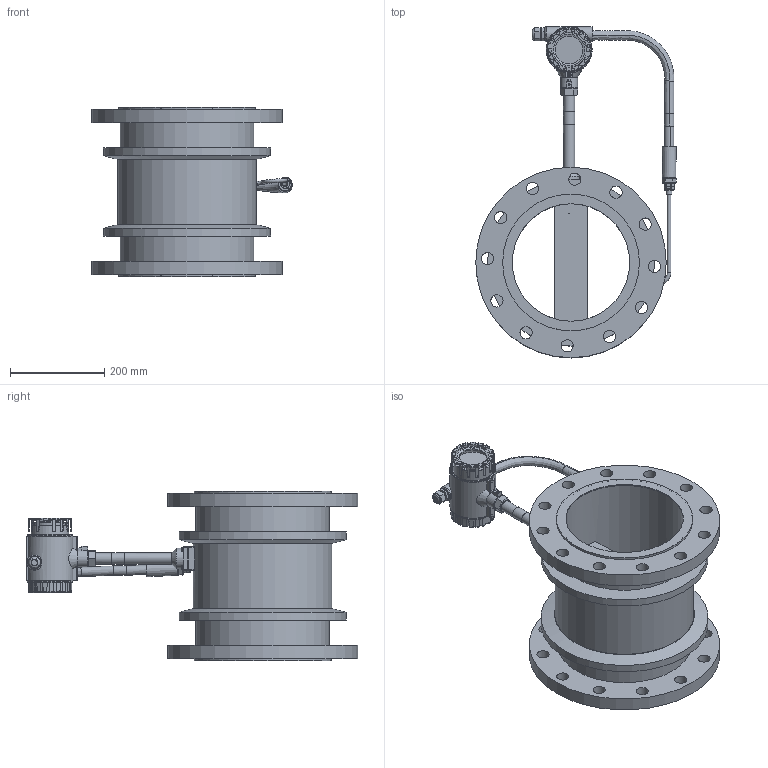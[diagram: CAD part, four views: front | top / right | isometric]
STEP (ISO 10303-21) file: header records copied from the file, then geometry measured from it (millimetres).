
FILE_DESCRIPTION(/* description */ ('STEP AP214'),/* implementation_level */ '2;1');
FILE_NAME(/* name */ 'DN250 vortex.step',/* time_stamp */ '2025-09-25T18:17:31+03:00',/* author */ (''),/* organization */ (''),/* preprocessor_version */ 'ST-DEVELOPER v20.1',/* originating_system */ 'Autodesk Translation Framework v14.10.0.0',/* authorisation */ '');
FILE_SCHEMA (('AUTOMOTIVE_DESIGN { 1 0 10303 214 3 1 1 }'));
Length unit declared in the file: millimetre
Products named in the file (1): DN100法兰连接装配体
Bounding box: 426.19 x 705.61 x 360.01 mm (x, y, z)
Volume: 11937830 mm3; surface area: 1571392.5 mm2
Topology: 24 solids, 25 shells, 920 faces, 2261 edges, 1431 vertices
Faces by surface type: plane 511, cylinder 258, torus 60, cone 53, bspline 34, sphere 4
Full cylindrical faces by diameter (mm): 3.2 x1, 3.3 x1, 3.65 x2, 4.2 x10, 6 x12, 8 x4, 8.7 x2, 9 x2, 10 x1, 12 x1, 12.4 x1, 13 x1, 14 x1, 16 x2, 17.727 x4, 18 x5, 19 x7, 19.2 x2, 20 x1, 20.6 x1, 20.655 x1, 22.6 x1, 24 x2, 24.2 x1, 26 x24, 28 x2, 31.9 x2, 38 x1, 44 x1, 59 x1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
Entity records: 32005 total; most frequent: CARTESIAN_POINT 9622, DIRECTION 4884, ORIENTED_EDGE 4496, EDGE_CURVE 2248, AXIS2_PLACEMENT_3D 1869, VERTEX_POINT 1431, LINE 1146, VECTOR 1146
